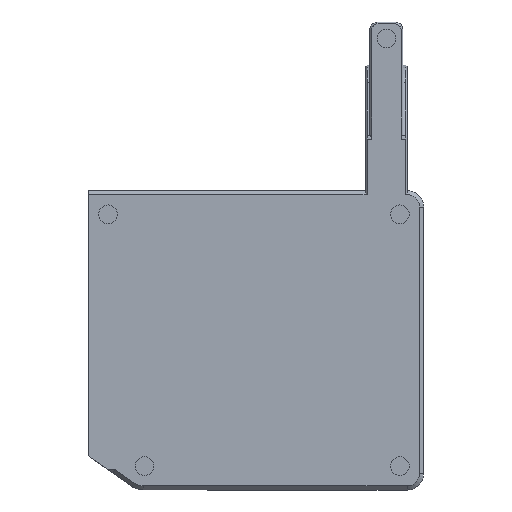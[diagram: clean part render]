
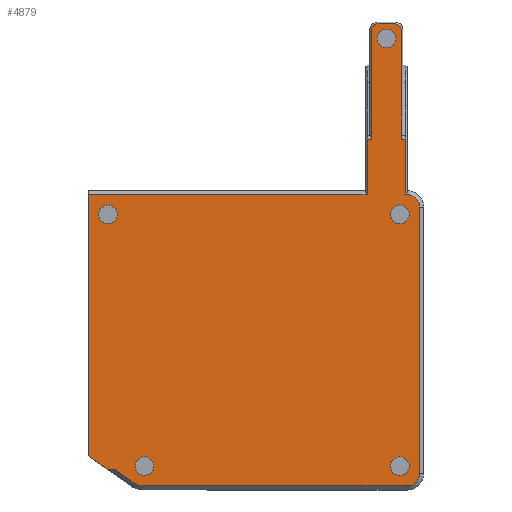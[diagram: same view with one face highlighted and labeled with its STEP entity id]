
A CAD part, top view. The second image highlights one B-rep face of the part: STEP entity #4879.
In plain terms, the highlighted planar face has unit normal (0, 0, 1).
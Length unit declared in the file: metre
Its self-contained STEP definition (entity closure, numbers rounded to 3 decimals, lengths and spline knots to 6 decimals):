
#81=CIRCLE('',#5200,0.008);
#82=CIRCLE('',#5201,0.006);
#83=CIRCLE('',#5202,0.006);
#84=CIRCLE('',#5203,0.0032);
#85=CIRCLE('',#5204,0.0032);
#86=CIRCLE('',#5205,0.0045);
#87=CIRCLE('',#5206,0.0045);
#88=CIRCLE('',#5207,0.0045);
#89=CIRCLE('',#5208,0.0045);
#90=CIRCLE('',#5209,0.0045);
#413=ORIENTED_EDGE('',*,*,#1846,.T.);
#414=ORIENTED_EDGE('',*,*,#1847,.T.);
#415=ORIENTED_EDGE('',*,*,#1848,.T.);
#416=ORIENTED_EDGE('',*,*,#1849,.F.);
#417=ORIENTED_EDGE('',*,*,#1850,.T.);
#418=ORIENTED_EDGE('',*,*,#1851,.T.);
#419=ORIENTED_EDGE('',*,*,#1852,.T.);
#420=ORIENTED_EDGE('',*,*,#1853,.T.);
#421=ORIENTED_EDGE('',*,*,#1854,.T.);
#422=ORIENTED_EDGE('',*,*,#1855,.T.);
#423=ORIENTED_EDGE('',*,*,#1856,.T.);
#424=ORIENTED_EDGE('',*,*,#1857,.T.);
#425=ORIENTED_EDGE('',*,*,#1858,.T.);
#426=ORIENTED_EDGE('',*,*,#1859,.T.);
#427=ORIENTED_EDGE('',*,*,#1860,.T.);
#428=ORIENTED_EDGE('',*,*,#1861,.T.);
#429=ORIENTED_EDGE('',*,*,#1862,.T.);
#430=ORIENTED_EDGE('',*,*,#1863,.T.);
#431=ORIENTED_EDGE('',*,*,#1864,.T.);
#432=ORIENTED_EDGE('',*,*,#1811,.T.);
#433=ORIENTED_EDGE('',*,*,#1865,.T.);
#434=ORIENTED_EDGE('',*,*,#1866,.T.);
#435=ORIENTED_EDGE('',*,*,#1867,.F.);
#436=ORIENTED_EDGE('',*,*,#1868,.F.);
#437=ORIENTED_EDGE('',*,*,#1869,.F.);
#438=ORIENTED_EDGE('',*,*,#1870,.F.);
#1811=EDGE_CURVE('',#2528,#2527,#3003,.F.);
#1846=EDGE_CURVE('',#2558,#2559,#3022,.T.);
#1847=EDGE_CURVE('',#2559,#2560,#3023,.T.);
#1848=EDGE_CURVE('',#2560,#2561,#3024,.T.);
#1849=EDGE_CURVE('',#2562,#2561,#3025,.T.);
#1850=EDGE_CURVE('',#2562,#2563,#3026,.T.);
#1851=EDGE_CURVE('',#2563,#2564,#3027,.T.);
#1852=EDGE_CURVE('',#2564,#2565,#3028,.T.);
#1853=EDGE_CURVE('',#2565,#2566,#81,.T.);
#1854=EDGE_CURVE('',#2566,#2567,#3029,.T.);
#1855=EDGE_CURVE('',#2567,#2568,#82,.T.);
#1856=EDGE_CURVE('',#2568,#2569,#3030,.T.);
#1857=EDGE_CURVE('',#2569,#2570,#83,.T.);
#1858=EDGE_CURVE('',#2570,#2571,#3031,.T.);
#1859=EDGE_CURVE('',#2571,#2572,#3032,.F.);
#1860=EDGE_CURVE('',#2572,#2573,#3033,.T.);
#1861=EDGE_CURVE('',#2573,#2574,#84,.T.);
#1862=EDGE_CURVE('',#2574,#2575,#3034,.T.);
#1863=EDGE_CURVE('',#2575,#2576,#85,.T.);
#1864=EDGE_CURVE('',#2576,#2528,#3035,.T.);
#1865=EDGE_CURVE('',#2527,#2558,#3036,.T.);
#1866=EDGE_CURVE('',#2577,#2577,#86,.T.);
#1867=EDGE_CURVE('',#2578,#2578,#87,.T.);
#1868=EDGE_CURVE('',#2579,#2579,#88,.T.);
#1869=EDGE_CURVE('',#2580,#2580,#89,.T.);
#1870=EDGE_CURVE('',#2581,#2581,#90,.T.);
#2527=VERTEX_POINT('',#7188);
#2528=VERTEX_POINT('',#7190);
#2558=VERTEX_POINT('',#7258);
#2559=VERTEX_POINT('',#7259);
#2560=VERTEX_POINT('',#7261);
#2561=VERTEX_POINT('',#7263);
#2562=VERTEX_POINT('',#7265);
#2563=VERTEX_POINT('',#7267);
#2564=VERTEX_POINT('',#7269);
#2565=VERTEX_POINT('',#7271);
#2566=VERTEX_POINT('',#7273);
#2567=VERTEX_POINT('',#7275);
#2568=VERTEX_POINT('',#7277);
#2569=VERTEX_POINT('',#7279);
#2570=VERTEX_POINT('',#7281);
#2571=VERTEX_POINT('',#7283);
#2572=VERTEX_POINT('',#7285);
#2573=VERTEX_POINT('',#7287);
#2574=VERTEX_POINT('',#7289);
#2575=VERTEX_POINT('',#7291);
#2576=VERTEX_POINT('',#7293);
#2577=VERTEX_POINT('',#7297);
#2578=VERTEX_POINT('',#7299);
#2579=VERTEX_POINT('',#7301);
#2580=VERTEX_POINT('',#7303);
#2581=VERTEX_POINT('',#7305);
#3003=LINE('',#7189,#3553);
#3022=LINE('',#7257,#3572);
#3023=LINE('',#7260,#3573);
#3024=LINE('',#7262,#3574);
#3025=LINE('',#7264,#3575);
#3026=LINE('',#7266,#3576);
#3027=LINE('',#7268,#3577);
#3028=LINE('',#7270,#3578);
#3029=LINE('',#7274,#3579);
#3030=LINE('',#7278,#3580);
#3031=LINE('',#7282,#3581);
#3032=LINE('',#7284,#3582);
#3033=LINE('',#7286,#3583);
#3034=LINE('',#7290,#3584);
#3035=LINE('',#7294,#3585);
#3036=LINE('',#7295,#3586);
#3553=VECTOR('',#5713,1.);
#3572=VECTOR('',#5770,1.);
#3573=VECTOR('',#5771,1.);
#3574=VECTOR('',#5772,1.);
#3575=VECTOR('',#5773,1.);
#3576=VECTOR('',#5774,1.);
#3577=VECTOR('',#5775,1.);
#3578=VECTOR('',#5776,1.);
#3579=VECTOR('',#5779,1.);
#3580=VECTOR('',#5782,1.);
#3581=VECTOR('',#5785,1.);
#3582=VECTOR('',#5786,1.);
#3583=VECTOR('',#5787,1.);
#3584=VECTOR('',#5790,1.);
#3585=VECTOR('',#5793,1.);
#3586=VECTOR('',#5794,1.);
#4058=EDGE_LOOP('',(#413,#414,#415,#416,#417,#418,#419,#420,#421,#422,#423,
#424,#425,#426,#427,#428,#429,#430,#431,#432,#433));
#4059=EDGE_LOOP('',(#434));
#4060=EDGE_LOOP('',(#435));
#4061=EDGE_LOOP('',(#436));
#4062=EDGE_LOOP('',(#437));
#4063=EDGE_LOOP('',(#438));
#4377=FACE_BOUND('',#4058,.T.);
#4378=FACE_BOUND('',#4059,.T.);
#4379=FACE_BOUND('',#4060,.T.);
#4380=FACE_BOUND('',#4061,.T.);
#4381=FACE_BOUND('',#4062,.T.);
#4382=FACE_BOUND('',#4063,.T.);
#4689=PLANE('',#5199);
#4879=ADVANCED_FACE('',(#4377,#4378,#4379,#4380,#4381,#4382),#4689,.T.);
#5199=AXIS2_PLACEMENT_3D('',#7256,#5768,#5769);
#5200=AXIS2_PLACEMENT_3D('',#7272,#5777,#5778);
#5201=AXIS2_PLACEMENT_3D('',#7276,#5780,#5781);
#5202=AXIS2_PLACEMENT_3D('',#7280,#5783,#5784);
#5203=AXIS2_PLACEMENT_3D('',#7288,#5788,#5789);
#5204=AXIS2_PLACEMENT_3D('',#7292,#5791,#5792);
#5205=AXIS2_PLACEMENT_3D('',#7296,#5795,#5796);
#5206=AXIS2_PLACEMENT_3D('',#7298,#5797,#5798);
#5207=AXIS2_PLACEMENT_3D('',#7300,#5799,#5800);
#5208=AXIS2_PLACEMENT_3D('',#7302,#5801,#5802);
#5209=AXIS2_PLACEMENT_3D('',#7304,#5803,#5804);
#5713=DIRECTION('',(1.,0.,0.));
#5768=DIRECTION('',(0.,0.,1.));
#5769=DIRECTION('',(1.,0.,0.));
#5770=DIRECTION('',(-1.,0.,0.));
#5771=DIRECTION('',(-1.,0.,0.));
#5772=DIRECTION('',(-1.,0.,0.));
#5773=DIRECTION('',(0.,1.,0.));
#5774=DIRECTION('',(0.819,-0.574,0.));
#5775=DIRECTION('',(1.,0.,0.));
#5776=DIRECTION('',(0.819,-0.574,0.));
#5777=DIRECTION('',(0.,0.,1.));
#5778=DIRECTION('',(1.,0.,0.));
#5779=DIRECTION('',(1.,0.,0.));
#5780=DIRECTION('',(0.,0.,1.));
#5781=DIRECTION('',(1.,0.,0.));
#5782=DIRECTION('',(0.,1.,0.));
#5783=DIRECTION('',(0.,0.,1.));
#5784=DIRECTION('',(1.,0.,0.));
#5785=DIRECTION('',(0.,1.,0.));
#5786=DIRECTION('',(1.,0.,0.));
#5787=DIRECTION('',(0.,1.,0.));
#5788=DIRECTION('',(0.,0.,1.));
#5789=DIRECTION('',(1.,0.,0.));
#5790=DIRECTION('',(-1.,0.,0.));
#5791=DIRECTION('',(0.,0.,1.));
#5792=DIRECTION('',(1.,0.,0.));
#5793=DIRECTION('',(0.,-1.,0.));
#5794=DIRECTION('',(0.,-1.,0.));
#5795=DIRECTION('',(0.,0.,-1.));
#5796=DIRECTION('',(1.,0.,0.));
#5797=DIRECTION('',(0.,0.,1.));
#5798=DIRECTION('',(1.,0.,0.));
#5799=DIRECTION('',(0.,0.,1.));
#5800=DIRECTION('',(1.,0.,0.));
#5801=DIRECTION('',(0.,0.,1.));
#5802=DIRECTION('',(1.,0.,0.));
#5803=DIRECTION('',(0.,0.,1.));
#5804=DIRECTION('',(1.,0.,0.));
#7188=CARTESIAN_POINT('',(0.2378,0.090942,0.00825));
#7189=CARTESIAN_POINT('',(0.003,0.090942,0.00825));
#7190=CARTESIAN_POINT('',(0.2398,0.090942,0.00825));
#7256=CARTESIAN_POINT('',(0.,-0.006225,0.00825));
#7257=CARTESIAN_POINT('',(0.222127,0.06415,0.00825));
#7258=CARTESIAN_POINT('',(0.2378,0.06415,0.00825));
#7259=CARTESIAN_POINT('',(0.23403,0.06415,0.00825));
#7260=CARTESIAN_POINT('',(0.137803,0.06415,0.00825));
#7261=CARTESIAN_POINT('',(0.137803,0.06415,0.00825));
#7262=CARTESIAN_POINT('',(0.102932,0.06415,0.00825));
#7263=CARTESIAN_POINT('',(0.102932,0.06415,0.00825));
#7264=CARTESIAN_POINT('',(0.102932,0.002,0.00825));
#7265=CARTESIAN_POINT('',(0.102932,-0.06215,0.00825));
#7266=CARTESIAN_POINT('',(0.108922,-0.066344,0.00825));
#7267=CARTESIAN_POINT('',(0.112144,-0.0686,0.00825));
#7268=CARTESIAN_POINT('',(0.113485,-0.0686,0.00825));
#7269=CARTESIAN_POINT('',(0.115631,-0.0686,0.00825));
#7270=CARTESIAN_POINT('',(0.12499,-0.075153,0.00825));
#7271=CARTESIAN_POINT('',(0.12499,-0.075153,0.00825));
#7272=CARTESIAN_POINT('',(0.129578,-0.0686,0.00825));
#7273=CARTESIAN_POINT('',(0.129578,-0.0766,0.00825));
#7274=CARTESIAN_POINT('',(0.,-0.0766,0.00825));
#7275=CARTESIAN_POINT('',(0.257,-0.0766,0.00825));
#7276=CARTESIAN_POINT('',(0.257,-0.0706,0.00825));
#7277=CARTESIAN_POINT('',(0.263,-0.0706,0.00825));
#7278=CARTESIAN_POINT('',(0.263,0.05815,0.00825));
#7279=CARTESIAN_POINT('',(0.263,0.05815,0.00825));
#7280=CARTESIAN_POINT('',(0.257,0.05815,0.00825));
#7281=CARTESIAN_POINT('',(0.2562,0.064096,0.00825));
#7282=CARTESIAN_POINT('',(0.2562,-0.006225,0.00825));
#7283=CARTESIAN_POINT('',(0.2562,0.090942,0.00825));
#7284=CARTESIAN_POINT('',(0.003,0.090942,0.00825));
#7285=CARTESIAN_POINT('',(0.2542,0.090942,0.00825));
#7286=CARTESIAN_POINT('',(0.2542,-0.006225,0.00825));
#7287=CARTESIAN_POINT('',(0.2542,0.143586,0.00825));
#7288=CARTESIAN_POINT('',(0.251,0.143586,0.00825));
#7289=CARTESIAN_POINT('',(0.251,0.146786,0.00825));
#7290=CARTESIAN_POINT('',(0.,0.146786,0.00825));
#7291=CARTESIAN_POINT('',(0.243,0.146786,0.00825));
#7292=CARTESIAN_POINT('',(0.243,0.143586,0.00825));
#7293=CARTESIAN_POINT('',(0.2398,0.143586,0.00825));
#7294=CARTESIAN_POINT('',(0.2398,0.090942,0.00825));
#7295=CARTESIAN_POINT('',(0.2378,0.06415,0.00825));
#7296=CARTESIAN_POINT('',(0.130051,-0.0671,0.00825));
#7297=CARTESIAN_POINT('',(0.134551,-0.0671,0.00825));
#7298=CARTESIAN_POINT('',(0.247,0.139586,0.00825));
#7299=CARTESIAN_POINT('',(0.2515,0.139586,0.00825));
#7300=CARTESIAN_POINT('',(0.112432,0.05465,0.00825));
#7301=CARTESIAN_POINT('',(0.116932,0.05465,0.00825));
#7302=CARTESIAN_POINT('',(0.2535,-0.0671,0.00825));
#7303=CARTESIAN_POINT('',(0.258,-0.0671,0.00825));
#7304=CARTESIAN_POINT('',(0.2535,0.05465,0.00825));
#7305=CARTESIAN_POINT('',(0.258,0.05465,0.00825));
